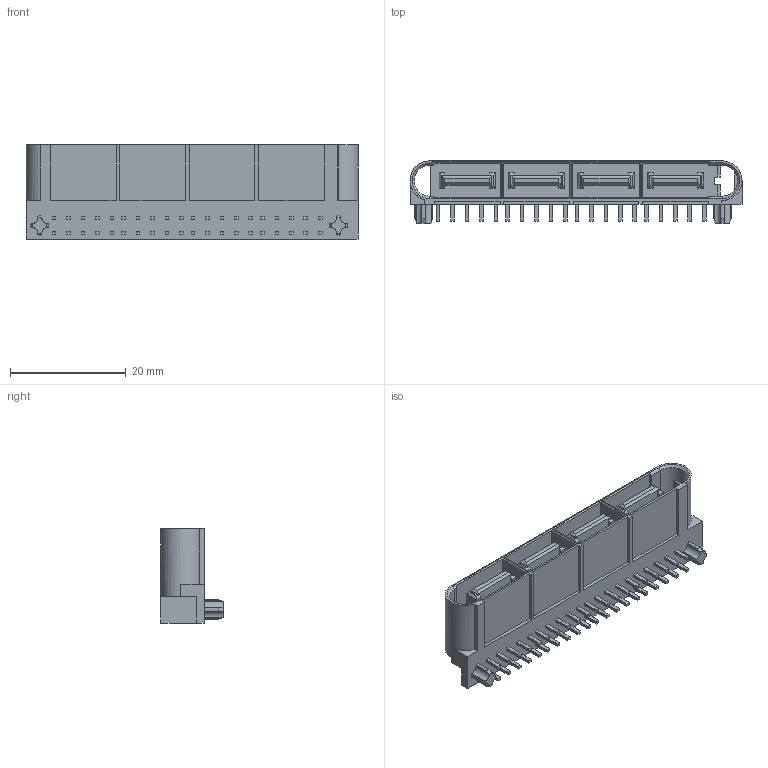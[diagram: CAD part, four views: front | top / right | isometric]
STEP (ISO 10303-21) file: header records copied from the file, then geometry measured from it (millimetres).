
FILE_DESCRIPTION((''),'2;1');
FILE_NAME('459858934','2020-10-29T',('me'),(''),'PRO/ENGINEER BY PARAMETRIC TECHNOLOGY CORPORATION, 2016010','PRO/ENGINEER BY PARAMETRIC TECHNOLOGY CORPORATION, 2016010','');
FILE_SCHEMA(('CONFIG_CONTROL_DESIGN'));
Length unit declared in the file: millimetre
Products named in the file (1): 459858934
Bounding box: 57.36 x 10.74 x 16.28 mm (x, y, z)
Volume: 4013.5 mm3; surface area: 5649.6 mm2
Topology: 1 solids, 1 shells, 444 faces, 1220 edges, 824 vertices
Faces by surface type: plane 414, cylinder 20, cone 10
Entity records: 13847 total; most frequent: CARTESIAN_POINT 2493, ORIENTED_EDGE 2272, DIRECTION 2216, EDGE_CURVE 1136, VECTOR 1050, LINE 1050, VERTEX_POINT 740, AXIS2_PLACEMENT_3D 583
